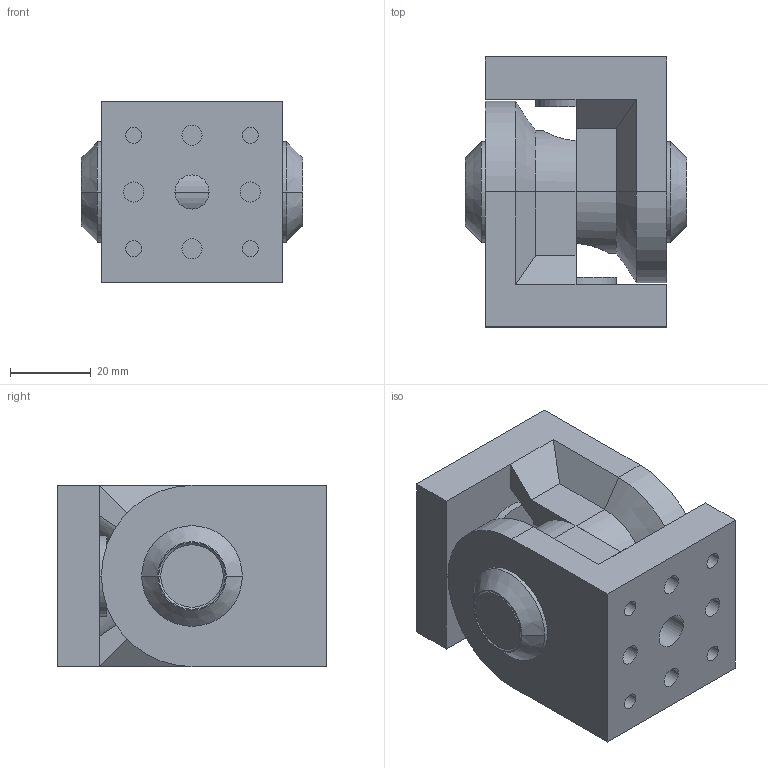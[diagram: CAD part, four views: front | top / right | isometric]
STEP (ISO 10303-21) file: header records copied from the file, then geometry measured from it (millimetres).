
FILE_DESCRIPTION((''),'2;1');
FILE_NAME('GIS450P_ASM','2002-12-27T',('Lipro doo'),('Lipro d.o.o.'),'PRO/ENGINEER BY PARAMETRIC TECHNOLOGY CORPORATION, 2001150','PRO/ENGINEER BY PARAMETRIC TECHNOLOGY CORPORATION, 2001150','');
FILE_SCHEMA(('CONFIG_CONTROL_DESIGN'));
Length unit declared in the file: millimetre
Products named in the file (5): GIS450P_1; GIS450P_2; GIS450P_3; GIS450P_4; GIS450P_ASM
Assembly tree (7 placements, depth 2):
  GIS450P_ASM
    GIS450P_1  x2
    GIS450P_2
    GIS450P_3  x2
    GIS450P_4  x2
Bounding box: 55 x 67 x 45 mm (x, y, z)
Volume: 100399 mm3; surface area: 34501.7 mm2
Topology: 7 solids, 8 shells, 144 faces, 310 edges, 198 vertices
Faces by surface type: cylinder 68, plane 58, cone 18
Entity records: 2373 total; most frequent: CARTESIAN_POINT 443, DIRECTION 427, ORIENTED_EDGE 328, AXIS2_PLACEMENT_3D 173, EDGE_CURVE 166, VERTEX_POINT 106, EDGE_LOOP 94, CIRCLE 82
